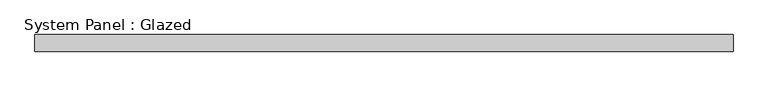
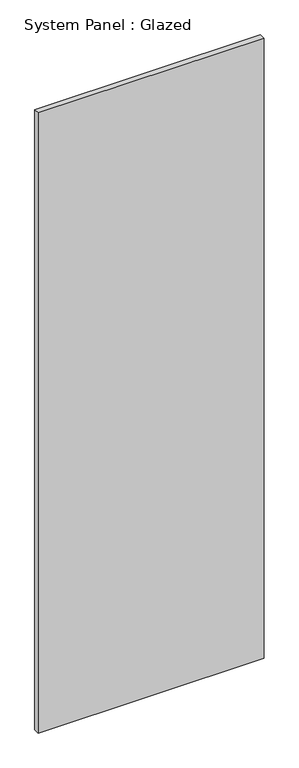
"""IFC4 building model written with IfcOpenShell, lengths in millimetres: plate geometry, System Panel : Glazed."""

import ifcopenshell
import ifcopenshell.guid

model = None  # the IFC model being written
_history = None  # IfcOwnerHistory: only IFC2X3 demands one
_inside = {}  # id of a spatial element -> (the spatial element, [elements in it])
_under = {}  # id of a project, library or spatial element -> (it, [spatial elements below it])
_declared = {}  # id of a project -> (the project, [libraries it declares])
_typed = {}  # id of a type object -> (the type object, [elements of that type])
_made_of = {}  # id of a material, layer set ... -> (it, [elements and type objects made of it])


def new_model(schema):
    """Start an empty IFC model of exactly this schema.

    Asked for "IFC4X3", IfcOpenShell would pick the latest addendum, in which some entities
    have other attributes; the version numbers below select the first issue.
    IFC2X3 requires an IfcOwnerHistory on every rooted entity: one is made here for all.
    """
    global model, _history
    if schema == "IFC4X3":
        model = ifcopenshell.file(schema_version=(4, 3, 0, 0))
    else:
        model = ifcopenshell.file(schema=schema)
    _inside.clear()
    _under.clear()
    _declared.clear()
    _typed.clear()
    _made_of.clear()
    _history = None
    if model.schema == "IFC2X3":
        org = make("IfcOrganization", Name="unknown")
        user = make(
            "IfcPersonAndOrganization",
            ThePerson=make("IfcPerson", FamilyName="unknown"),
            TheOrganization=org,
        )
        app = make(
            "IfcApplication",
            ApplicationDeveloper=org,
            Version="unknown",
            ApplicationFullName="unknown",
            ApplicationIdentifier="unknown",
        )
        _history = make(
            "IfcOwnerHistory",
            OwningUser=user,
            OwningApplication=app,
            ChangeAction="ADDED",
            CreationDate=0,
        )
    return model


def make(cls, **values):
    """One entity of the class cls with the attributes given. An attribute that is None is left unset."""
    return model.create_entity(
        cls, **{name: value for name, value in values.items() if value is not None}
    )


def rooted(cls, **values):
    """An entity with a GlobalId (a new one), such as an element, a storey or a relation."""
    return make(cls, GlobalId=ifcopenshell.guid.new(), OwnerHistory=_history, **values)


def si_unit(unit_type, name, prefix=None):
    """IfcSIUnit, for example si_unit("LENGTHUNIT", "METRE", prefix="MILLI")."""
    return make("IfcSIUnit", UnitType=unit_type, Prefix=prefix, Name=name)


def assignment(units):
    """IfcUnitAssignment: the units of a project."""
    return None if units is None else make("IfcUnitAssignment", Units=units)


def point(xyz):
    """IfcCartesianPoint."""
    return None if xyz is None else make("IfcCartesianPoint", Coordinates=xyz)


def direction(xyz):
    """IfcDirection."""
    return None if xyz is None else make("IfcDirection", DirectionRatios=xyz)


def frame(location, z_axis=None, x_axis=None):
    """IfcAxis2Placement3D, a coordinate frame: its origin and axes. An axis left out is left unset."""
    return make(
        "IfcAxis2Placement3D",
        Location=point(location),
        Axis=direction(z_axis),
        RefDirection=direction(x_axis),
    )


def origin():
    """The frame at (0, 0, 0) with its axes left unset."""
    return frame((0.0, 0.0, 0.0))


def origin_with_axes():
    """The frame at (0, 0, 0) with the z axis (0, 0, 1) and the x axis (1, 0, 0) written out."""
    return frame((0.0, 0.0, 0.0), z_axis=(0.0, 0.0, 1.0), x_axis=(1.0, 0.0, 0.0))


def place(relative_to, where):
    """IfcLocalPlacement: puts the frame where relative to a parent placement (None: the world)."""
    return make(
        "IfcLocalPlacement", PlacementRelTo=relative_to, RelativePlacement=where
    )


def context(
    kind, dimensions, precision=None, world=None, true_north=None, identifier=None
):
    """IfcGeometricRepresentationContext, for example the 3D "Model" context."""
    return make(
        "IfcGeometricRepresentationContext",
        ContextIdentifier=identifier,
        ContextType=kind,
        CoordinateSpaceDimension=dimensions,
        Precision=precision,
        WorldCoordinateSystem=world,
        TrueNorth=true_north,
    )


def project(units=None, contexts=None):
    """IfcProject with its units and contexts."""
    return rooted(
        "IfcProject",
        Name="project",
        RepresentationContexts=contexts,
        UnitsInContext=assignment(units),
    )


def spatial(cls, under=None, at=None, **own):
    """A site, building, storey or space (cls), placed at a placement, below another one or the project."""
    s = rooted(cls, ObjectPlacement=at, **own)
    if under is not None:
        _under.setdefault(under.id(), (under, []))[1].append(s)
    return s


def polyline(points):
    """IfcPolyline through the points."""
    return make("IfcPolyline", Points=[point(p) for p in points])


def outline(outer, holes=None, kind="AREA"):
    """IfcArbitraryClosedProfileDef: a profile drawn as a closed curve; with holes, ...WithVoids."""
    if holes is None:
        return make("IfcArbitraryClosedProfileDef", ProfileType=kind, OuterCurve=outer)
    return make(
        "IfcArbitraryProfileDefWithVoids",
        ProfileType=kind,
        OuterCurve=outer,
        InnerCurves=holes,
    )


def extrude(swept, where, along, depth):
    """IfcExtrudedAreaSolid: the profile swept, set in the frame where, extruded along a direction by depth."""
    return make(
        "IfcExtrudedAreaSolid",
        SweptArea=swept,
        Position=where,
        ExtrudedDirection=direction(along),
        Depth=depth,
    )


def shape(context_of_items, identifier, shape_type, items):
    """IfcShapeRepresentation: the items that make up one representation, for example the "Body"."""
    return make(
        "IfcShapeRepresentation",
        ContextOfItems=context_of_items,
        RepresentationIdentifier=identifier,
        RepresentationType=shape_type,
        Items=items,
    )


def source(mapping_origin, context_of_items, identifier, shape_type, items):
    """IfcRepresentationMap: a shape defined once, which mapped items show again and again."""
    return make(
        "IfcRepresentationMap",
        MappingOrigin=mapping_origin,
        MappedRepresentation=shape(context_of_items, identifier, shape_type, items),
    )


def transform(
    local_origin,
    x_axis=None,
    y_axis=None,
    z_axis=None,
    scale=None,
    scale2=None,
    scale3=None,
    uniform=True,
):
    """IfcCartesianTransformationOperator3D, or its non-uniform kind. x_axis, y_axis, z_axis: its Axis1, 2, 3."""
    if uniform:
        return make(
            "IfcCartesianTransformationOperator3D",
            Axis1=direction(x_axis),
            Axis2=direction(y_axis),
            LocalOrigin=point(local_origin),
            Scale=scale,
            Axis3=direction(z_axis),
        )
    return make(
        "IfcCartesianTransformationOperator3DnonUniform",
        Axis1=direction(x_axis),
        Axis2=direction(y_axis),
        LocalOrigin=point(local_origin),
        Scale=scale,
        Axis3=direction(z_axis),
        Scale2=scale2,
        Scale3=scale3,
    )


def mapped(mapping_source, mapping_target):
    """IfcMappedItem: shows the shape of a source again, moved by a transform."""
    return make(
        "IfcMappedItem", MappingSource=mapping_source, MappingTarget=mapping_target
    )


def made_of(thing, what):
    """Note that an element or type object is made of a material, layer set ...; save() writes the relation."""
    if what is not None:
        _made_of.setdefault(what.id(), (what, []))[1].append(thing)
    return thing


def element(
    cls,
    number,
    at=None,
    inside=None,
    cuts=None,
    type_object=None,
    material=None,
    context=None,
    identifier="Body",
    shape_type=None,
    held_by="IfcProductDefinitionShape",
    body=None,
    shapes=None,
    **own,
):
    """One element of the class cls, such as IfcWall. Its Tag is "e" and its number.

    at: its placement. inside: the storey or other place that contains it. cuts: it is an
    opening in that element (IfcRelVoidsElement). A single representation is given by context,
    identifier, shape_type and body (its items); several are given by shapes. held_by: the class
    of the entity that holds the representations. save() writes the other relations.
    """
    e = rooted(cls, Tag="e%d" % number, ObjectPlacement=at, **own)
    if body is not None:
        shapes = [shape(context, identifier, shape_type, body)]
    if shapes is not None:
        e.Representation = make(held_by, Representations=shapes)
    if inside is not None:
        _inside.setdefault(inside.id(), (inside, []))[1].append(e)
    if cuts is not None:
        rooted(
            "IfcRelVoidsElement", RelatingBuildingElement=cuts, RelatedOpeningElement=e
        )
    if type_object is not None:
        _typed.setdefault(type_object.id(), (type_object, []))[1].append(e)
    return made_of(e, material)


def aggregate(whole, parts):
    """IfcRelAggregates: a whole, such as a stair, and the parts it consists of."""
    return rooted("IfcRelAggregates", RelatingObject=whole, RelatedObjects=parts)


def save(model, path):
    """Write the relations noted so far, then the file.

    IfcRelAggregates (storeys below a building ...), IfcRelContainedInSpatialStructure (elements
    in a storey), IfcRelDefinesByType, IfcRelAssociatesMaterial and IfcRelDeclares: one each for
    every whole, place, type object, material and project.
    """
    for whole, parts in _under.values():
        aggregate(whole, parts)
    for where, things in _inside.values():
        rooted(
            "IfcRelContainedInSpatialStructure",
            RelatedElements=things,
            RelatingStructure=where,
        )
    for kind, things in _typed.values():
        rooted("IfcRelDefinesByType", RelatedObjects=things, RelatingType=kind)
    for what, things in _made_of.values():
        rooted("IfcRelAssociatesMaterial", RelatedObjects=things, RelatingMaterial=what)
    for by, libraries in _declared.values():
        rooted("IfcRelDeclares", RelatingContext=by, RelatedDefinitions=libraries)
    model.write(path)


def system_panel_glazed_45f0150e(model_context):
    return source(origin(), model_context, "Body", "SweptSolid", [
        extrude(outline(polyline([(514.9621202, -72.5), (-514.9621202, -72.5), (-514.9621202, -47.5), (514.9621202, -47.5), (514.9621202, -72.5)])), origin_with_axes(), (0.0, 0.0, 1.0), 2987.4038106),
    ])


if __name__ == "__main__":
    model = new_model("IFC4")
    model_context = context("Model", 3, world=origin())
    ifc_project = project(units=[si_unit("LENGTHUNIT", "METRE", prefix="MILLI")], contexts=[model_context])
    site = spatial("IfcSite", under=ifc_project)
    building = spatial("IfcBuilding", under=site)
    placement = place(None, origin())
    system_panel_glazed_shape = system_panel_glazed_45f0150e(model_context)
    element("IfcPlate", 1, ObjectType="System Panel : Glazed", at=placement, inside=building, context=model_context, shape_type="MappedRepresentation", body=[
        mapped(system_panel_glazed_shape, transform((0.0, 0.0, 0.0), x_axis=(1.0, 0.0, 0.0), y_axis=(0.0, 1.0, 0.0), z_axis=(0.0, 0.0, 1.0))),
    ])
    save(model, "model.ifc")
